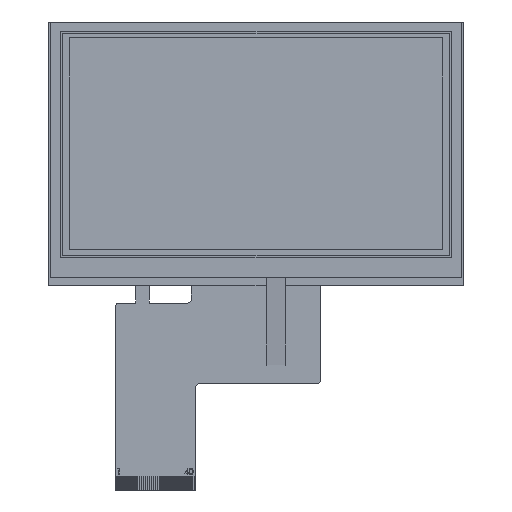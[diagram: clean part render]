
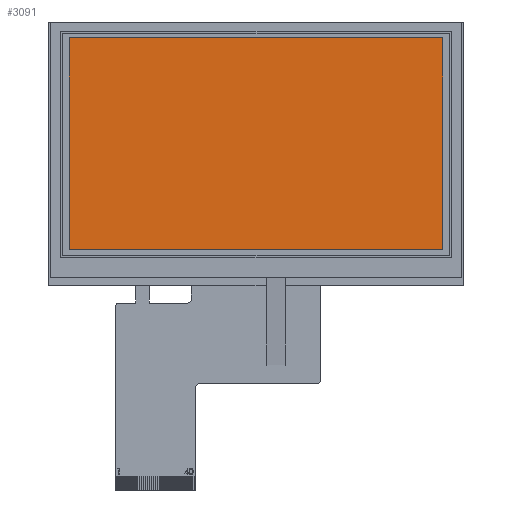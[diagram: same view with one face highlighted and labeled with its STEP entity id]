
A CAD part, top view. The second image highlights one B-rep face of the part: STEP entity #3091.
In plain terms, the highlighted planar face has unit normal (0, 0, 1).
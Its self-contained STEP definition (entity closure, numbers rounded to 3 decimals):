
#51 = DIRECTION ( 'NONE',  ( 0., 1., 0. ) ) ;
#55 = VECTOR ( 'NONE', #7637, 1000. ) ;
#109 = EDGE_CURVE ( 'NONE', #10433, #6783, #9606, .T. ) ;
#302 = VECTOR ( 'NONE', #51, 1000. ) ;
#605 = LINE ( 'NONE', #6889, #55 ) ;
#1758 = EDGE_CURVE ( 'NONE', #6783, #6232, #3821, .T. ) ;
#1793 = CARTESIAN_POINT ( 'NONE',  ( 0., 0., 1.15 ) ) ;
#2419 = EDGE_CURVE ( 'NONE', #8783, #10433, #605, .T. ) ;
#2494 = CARTESIAN_POINT ( 'NONE',  ( 99.92, 0., 1.15 ) ) ;
#2697 = ORIENTED_EDGE ( 'NONE', *, *, #2419, .F. ) ;
#2805 = CARTESIAN_POINT ( 'NONE',  ( 4.88, -3.91, 1.15 ) ) ;
#3091 = ADVANCED_FACE ( 'NONE', ( #11314 ), #7043, .T. ) ;
#3415 = DIRECTION ( 'NONE',  ( 0., -1., 0. ) ) ;
#3821 = LINE ( 'NONE', #6554, #9365 ) ;
#4256 = CARTESIAN_POINT ( 'NONE',  ( 4.88, -57.77, 1.15 ) ) ;
#4642 = ORIENTED_EDGE ( 'NONE', *, *, #1758, .F. ) ;
#5148 = VECTOR ( 'NONE', #3415, 1000. ) ;
#5580 = DIRECTION ( 'NONE',  ( 1., 0., 0. ) ) ;
#5819 = EDGE_LOOP ( 'NONE', ( #7743, #2697, #10171, #4642 ) ) ;
#5996 = DIRECTION ( 'NONE',  ( 0., 0., 1. ) ) ;
#6069 = LINE ( 'NONE', #2494, #5148 ) ;
#6168 = EDGE_CURVE ( 'NONE', #6232, #8783, #6069, .T. ) ;
#6232 = VERTEX_POINT ( 'NONE', #10573 ) ;
#6554 = CARTESIAN_POINT ( 'NONE',  ( 0., -3.91, 1.15 ) ) ;
#6783 = VERTEX_POINT ( 'NONE', #2805 ) ;
#6889 = CARTESIAN_POINT ( 'NONE',  ( 0., -57.77, 1.15 ) ) ;
#7043 = PLANE ( 'NONE',  #11023 ) ;
#7637 = DIRECTION ( 'NONE',  ( -1., 0., 0. ) ) ;
#7743 = ORIENTED_EDGE ( 'NONE', *, *, #109, .F. ) ;
#7878 = CARTESIAN_POINT ( 'NONE',  ( 4.88, 0., 1.15 ) ) ;
#8783 = VERTEX_POINT ( 'NONE', #10977 ) ;
#9365 = VECTOR ( 'NONE', #5580, 1000. ) ;
#9606 = LINE ( 'NONE', #7878, #302 ) ;
#10171 = ORIENTED_EDGE ( 'NONE', *, *, #6168, .F. ) ;
#10380 = DIRECTION ( 'NONE',  ( 1., 0., 0. ) ) ;
#10433 = VERTEX_POINT ( 'NONE', #4256 ) ;
#10573 = CARTESIAN_POINT ( 'NONE',  ( 99.92, -3.91, 1.15 ) ) ;
#10977 = CARTESIAN_POINT ( 'NONE',  ( 99.92, -57.77, 1.15 ) ) ;
#11023 = AXIS2_PLACEMENT_3D ( 'NONE', #1793, #5996, #10380 ) ;
#11314 = FACE_OUTER_BOUND ( 'NONE', #5819, .T. ) ;
